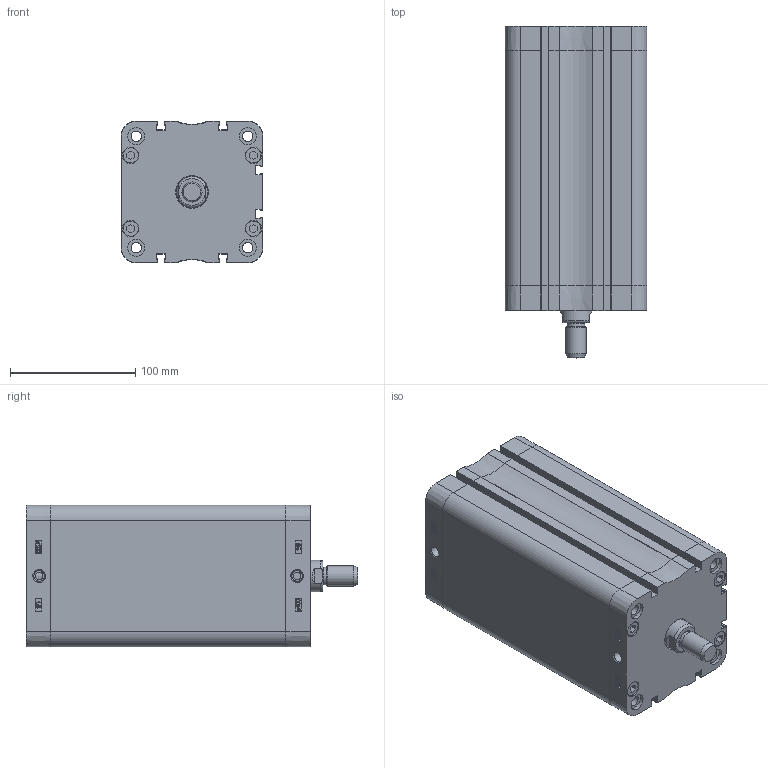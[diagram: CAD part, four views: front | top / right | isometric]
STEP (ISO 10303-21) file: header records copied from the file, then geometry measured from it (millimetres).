
FILE_DESCRIPTION((''),'2;1');
FILE_NAME('T:\Archivio Inventor\- CATALOGHI 2012\SERIE P - NUOVA\PDM\PDM100\PDM100.---.GS.M\PDM100.160.GS.M.stp','2013-02-05T11:44:49',('Administrator'),(''),'Autodesk Inventor 2012','Autodesk Inventor 2012','');
FILE_SCHEMA(('CONFIG_CONTROL_DESIGN'));
Length unit declared in the file: millimetre
Products named in the file (1): PDM100.160.GS.M
Bounding box: 113.3 x 265 x 113.3 mm (x, y, z)
Volume: 1036405.3 mm3; surface area: 307280.5 mm2
Topology: 1 solids, 5 shells, 908 faces, 2136 edges, 1312 vertices
Faces by surface type: plane 371, bspline 226, cylinder 148, cone 81, torus 58, sphere 24
Full cylindrical faces by diameter (mm): 6 x2, 8.3 x4, 8.376 x8, 8.566 x2, 9.976 x4, 12 x1, 12.7 x8, 13.1 x8, 13.5 x8, 14 x1, 16 x1, 25 x1, 25.5 x1, 100 x1, 103.5 x1, 103.7 x1
Entity records: 29573 total; most frequent: CARTESIAN_POINT 9705, ORIENTED_EDGE 4030, DIRECTION 3400, EDGE_CURVE 2015, VERTEX_POINT 1291, AXIS2_PLACEMENT_3D 1208, EDGE_LOOP 1088, VECTOR 984
